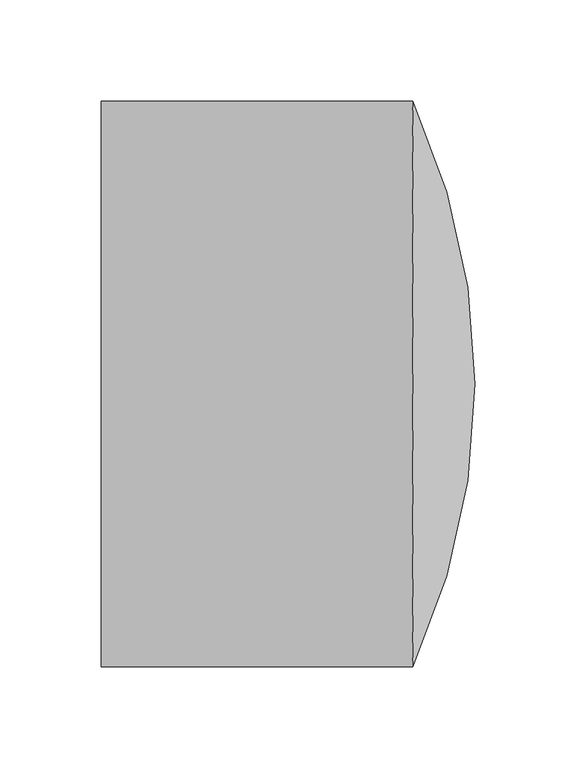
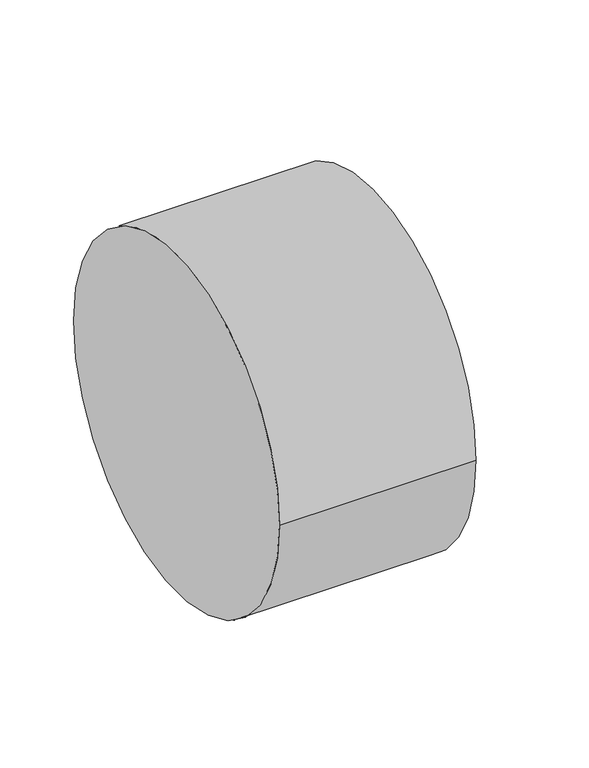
"""IFC4 building model written with IfcOpenShell, lengths in millimetres: pipe fitting geometry, 01051012 : Tapones H."""

import ifcopenshell
import ifcopenshell.guid

model = None  # the IFC model being written
_history = None  # IfcOwnerHistory: only IFC2X3 demands one
_inside = {}  # id of a spatial element -> (the spatial element, [elements in it])
_under = {}  # id of a project, library or spatial element -> (it, [spatial elements below it])
_declared = {}  # id of a project -> (the project, [libraries it declares])
_typed = {}  # id of a type object -> (the type object, [elements of that type])
_made_of = {}  # id of a material, layer set ... -> (it, [elements and type objects made of it])


def new_model(schema):
    """Start an empty IFC model of exactly this schema.

    Asked for "IFC4X3", IfcOpenShell would pick the latest addendum, in which some entities
    have other attributes; the version numbers below select the first issue.
    IFC2X3 requires an IfcOwnerHistory on every rooted entity: one is made here for all.
    """
    global model, _history
    if schema == "IFC4X3":
        model = ifcopenshell.file(schema_version=(4, 3, 0, 0))
    else:
        model = ifcopenshell.file(schema=schema)
    _inside.clear()
    _under.clear()
    _declared.clear()
    _typed.clear()
    _made_of.clear()
    _history = None
    if model.schema == "IFC2X3":
        org = make("IfcOrganization", Name="unknown")
        user = make(
            "IfcPersonAndOrganization",
            ThePerson=make("IfcPerson", FamilyName="unknown"),
            TheOrganization=org,
        )
        app = make(
            "IfcApplication",
            ApplicationDeveloper=org,
            Version="unknown",
            ApplicationFullName="unknown",
            ApplicationIdentifier="unknown",
        )
        _history = make(
            "IfcOwnerHistory",
            OwningUser=user,
            OwningApplication=app,
            ChangeAction="ADDED",
            CreationDate=0,
        )
    return model


def make(cls, **values):
    """One entity of the class cls with the attributes given. An attribute that is None is left unset."""
    return model.create_entity(
        cls, **{name: value for name, value in values.items() if value is not None}
    )


def rooted(cls, **values):
    """An entity with a GlobalId (a new one), such as an element, a storey or a relation."""
    return make(cls, GlobalId=ifcopenshell.guid.new(), OwnerHistory=_history, **values)


def si_unit(unit_type, name, prefix=None):
    """IfcSIUnit, for example si_unit("LENGTHUNIT", "METRE", prefix="MILLI")."""
    return make("IfcSIUnit", UnitType=unit_type, Prefix=prefix, Name=name)


def assignment(units):
    """IfcUnitAssignment: the units of a project."""
    return None if units is None else make("IfcUnitAssignment", Units=units)


def point(xyz):
    """IfcCartesianPoint."""
    return None if xyz is None else make("IfcCartesianPoint", Coordinates=xyz)


def direction(xyz):
    """IfcDirection."""
    return None if xyz is None else make("IfcDirection", DirectionRatios=xyz)


def frame(location, z_axis=None, x_axis=None):
    """IfcAxis2Placement3D, a coordinate frame: its origin and axes. An axis left out is left unset."""
    return make(
        "IfcAxis2Placement3D",
        Location=point(location),
        Axis=direction(z_axis),
        RefDirection=direction(x_axis),
    )


def origin():
    """The frame at (0, 0, 0) with its axes left unset."""
    return frame((0.0, 0.0, 0.0))


def place(relative_to, where):
    """IfcLocalPlacement: puts the frame where relative to a parent placement (None: the world)."""
    return make(
        "IfcLocalPlacement", PlacementRelTo=relative_to, RelativePlacement=where
    )


def context(
    kind, dimensions, precision=None, world=None, true_north=None, identifier=None
):
    """IfcGeometricRepresentationContext, for example the 3D "Model" context."""
    return make(
        "IfcGeometricRepresentationContext",
        ContextIdentifier=identifier,
        ContextType=kind,
        CoordinateSpaceDimension=dimensions,
        Precision=precision,
        WorldCoordinateSystem=world,
        TrueNorth=true_north,
    )


def project(units=None, contexts=None):
    """IfcProject with its units and contexts."""
    return rooted(
        "IfcProject",
        Name="project",
        RepresentationContexts=contexts,
        UnitsInContext=assignment(units),
    )


def spatial(cls, under=None, at=None, **own):
    """A site, building, storey or space (cls), placed at a placement, below another one or the project."""
    s = rooted(cls, ObjectPlacement=at, **own)
    if under is not None:
        _under.setdefault(under.id(), (under, []))[1].append(s)
    return s


def circle_curve(where, radius):
    """IfcCircle in the frame where."""
    return make("IfcCircle", Position=where, Radius=radius)


def ellipse_curve(where, semi_axis1, semi_axis2):
    """IfcEllipse in the frame where."""
    return make(
        "IfcEllipse", Position=where, SemiAxis1=semi_axis1, SemiAxis2=semi_axis2
    )


def trimmed(basis, trim1, trim2, sense, master):
    """IfcTrimmedCurve: the piece of a basis curve between two trims."""
    return make(
        "IfcTrimmedCurve",
        BasisCurve=basis,
        Trim1=trim1,
        Trim2=trim2,
        SenseAgreement=sense,
        MasterRepresentation=master,
    )


def shape(context_of_items, identifier, shape_type, items):
    """IfcShapeRepresentation: the items that make up one representation, for example the "Body"."""
    return make(
        "IfcShapeRepresentation",
        ContextOfItems=context_of_items,
        RepresentationIdentifier=identifier,
        RepresentationType=shape_type,
        Items=items,
    )


def source(mapping_origin, context_of_items, identifier, shape_type, items):
    """IfcRepresentationMap: a shape defined once, which mapped items show again and again."""
    return make(
        "IfcRepresentationMap",
        MappingOrigin=mapping_origin,
        MappedRepresentation=shape(context_of_items, identifier, shape_type, items),
    )


def transform(
    local_origin,
    x_axis=None,
    y_axis=None,
    z_axis=None,
    scale=None,
    scale2=None,
    scale3=None,
    uniform=True,
):
    """IfcCartesianTransformationOperator3D, or its non-uniform kind. x_axis, y_axis, z_axis: its Axis1, 2, 3."""
    if uniform:
        return make(
            "IfcCartesianTransformationOperator3D",
            Axis1=direction(x_axis),
            Axis2=direction(y_axis),
            LocalOrigin=point(local_origin),
            Scale=scale,
            Axis3=direction(z_axis),
        )
    return make(
        "IfcCartesianTransformationOperator3DnonUniform",
        Axis1=direction(x_axis),
        Axis2=direction(y_axis),
        LocalOrigin=point(local_origin),
        Scale=scale,
        Axis3=direction(z_axis),
        Scale2=scale2,
        Scale3=scale3,
    )


def mapped(mapping_source, mapping_target):
    """IfcMappedItem: shows the shape of a source again, moved by a transform."""
    return make(
        "IfcMappedItem", MappingSource=mapping_source, MappingTarget=mapping_target
    )


def made_of(thing, what):
    """Note that an element or type object is made of a material, layer set ...; save() writes the relation."""
    if what is not None:
        _made_of.setdefault(what.id(), (what, []))[1].append(thing)
    return thing


def element(
    cls,
    number,
    at=None,
    inside=None,
    cuts=None,
    type_object=None,
    material=None,
    context=None,
    identifier="Body",
    shape_type=None,
    held_by="IfcProductDefinitionShape",
    body=None,
    shapes=None,
    **own,
):
    """One element of the class cls, such as IfcWall. Its Tag is "e" and its number.

    at: its placement. inside: the storey or other place that contains it. cuts: it is an
    opening in that element (IfcRelVoidsElement). A single representation is given by context,
    identifier, shape_type and body (its items); several are given by shapes. held_by: the class
    of the entity that holds the representations. save() writes the other relations.
    """
    e = rooted(cls, Tag="e%d" % number, ObjectPlacement=at, **own)
    if body is not None:
        shapes = [shape(context, identifier, shape_type, body)]
    if shapes is not None:
        e.Representation = make(held_by, Representations=shapes)
    if inside is not None:
        _inside.setdefault(inside.id(), (inside, []))[1].append(e)
    if cuts is not None:
        rooted(
            "IfcRelVoidsElement", RelatingBuildingElement=cuts, RelatedOpeningElement=e
        )
    if type_object is not None:
        _typed.setdefault(type_object.id(), (type_object, []))[1].append(e)
    return made_of(e, material)


def aggregate(whole, parts):
    """IfcRelAggregates: a whole, such as a stair, and the parts it consists of."""
    return rooted("IfcRelAggregates", RelatingObject=whole, RelatedObjects=parts)


def save(model, path):
    """Write the relations noted so far, then the file.

    IfcRelAggregates (storeys below a building ...), IfcRelContainedInSpatialStructure (elements
    in a storey), IfcRelDefinesByType, IfcRelAssociatesMaterial and IfcRelDeclares: one each for
    every whole, place, type object, material and project.
    """
    for whole, parts in _under.values():
        aggregate(whole, parts)
    for where, things in _inside.values():
        rooted(
            "IfcRelContainedInSpatialStructure",
            RelatedElements=things,
            RelatingStructure=where,
        )
    for kind, things in _typed.values():
        rooted("IfcRelDefinesByType", RelatedObjects=things, RelatingType=kind)
    for what, things in _made_of.values():
        rooted("IfcRelAssociatesMaterial", RelatedObjects=things, RelatingMaterial=what)
    for by, libraries in _declared.values():
        rooted("IfcRelDeclares", RelatingContext=by, RelatedDefinitions=libraries)
    model.write(path)


def plane_surface(at):
    """IfcPlane: the flat surface through the origin of the frame at, square to its z axis."""
    return make("IfcPlane", Position=at)


def cylinder_surface(at, radius):
    """IfcCylindricalSurface: all points at the distance radius from the z axis of the frame at."""
    return make("IfcCylindricalSurface", Position=at, Radius=radius)


def revolved_surface(curve, axis_point, axis_direction):
    """IfcSurfaceOfRevolution: the curve turned about the line through axis_point along axis_direction."""
    return make(
        "IfcSurfaceOfRevolution",
        SweptCurve=make("IfcArbitraryOpenProfileDef", ProfileType="CURVE", Curve=curve),
        AxisPosition=make("IfcAxis1Placement", Location=point(axis_point), Axis=direction(axis_direction)),
    )


def advanced_brep(points, edges, surfaces, faces):
    """IfcAdvancedBrep: a solid bounded by faces that lie on surfaces and meet in shared edges.

    An edge is (start, end): straight between two places in points (the first is 0);
    or (start, end, curve); or (start, end, curve, False) where it runs against its curve.
    A face is (place in surfaces, loops), or (place, loops, False) where it looks against
    its surface's normal. A loop lists edges by number (the first is 1), with a minus sign
    where the edge is run from its end to its start. The first loop is the outer one.
    """
    corners = [point(p) for p in points]
    vertices = [make("IfcVertexPoint", VertexGeometry=c) for c in corners]
    made = []
    for start, end, *more in edges:
        made.append(
            make(
                "IfcEdgeCurve",
                EdgeStart=vertices[start],
                EdgeEnd=vertices[end],
                EdgeGeometry=more[0] if more else make("IfcPolyline", Points=[corners[start], corners[end]]),
                SameSense=more[1] if len(more) > 1 else True,
            )
        )
    hull = []
    for where, loops, *sense in faces:
        bounds = []
        for j, loop in enumerate(loops):
            ring = [make("IfcOrientedEdge", EdgeElement=made[abs(k) - 1], Orientation=k > 0) for k in loop]
            bounds.append(
                make(
                    "IfcFaceOuterBound" if j == 0 else "IfcFaceBound",
                    Bound=make("IfcEdgeLoop", EdgeList=ring),
                    Orientation=True,
                )
            )
        hull.append(make("IfcAdvancedFace", Bounds=bounds, FaceSurface=surfaces[where], SameSense=sense[0] if sense else True))
    return make("IfcAdvancedBrep", Outer=make("IfcClosedShell", CfsFaces=hull))


def pipe_fitting_1efd437d(model_context):
    return source(origin(), model_context, "Body", "AdvancedBrep", [
        advanced_brep(
        [(154.1666667, 140.0, 0.0), (185.0, 0.0, 0.0), (154.1666667, -140.0, 0.0), (0.0, -140.0, 0.0), (0.0, 140.0, 0.0)],
        [
            (0, 1, circle_curve(frame((-154.3534643, -1.3432233, 0.0), z_axis=(0.0, 0.0, -1.0), x_axis=(1.0, 0.0, 0.0)), 339.3561227)),
            (1, 2, circle_curve(frame((-154.3534643, 1.3432233, 0.0), z_axis=(0.0, 0.0, -1.0), x_axis=(1.0, 0.0, 0.0)), 339.3561227)),
            (2, 0, circle_curve(frame((154.1666667, 0.0, 0.0), z_axis=(1.0, 0.0, 0.0), x_axis=(0.0, 1.0, 0.0)), 140.0)),
            (0, 2, circle_curve(frame((154.1666667, 0.0, 0.0), z_axis=(1.0, 0.0, 0.0), x_axis=(0.0, 1.0, 0.0)), 140.0)),
            (3, 4, circle_curve(frame((0.0, 0.0, 0.0), z_axis=(-1.0, 0.0, 0.0), x_axis=(0.0, 1.0, 0.0)), 140.0)),
            (4, 3, circle_curve(frame((0.0, 0.0, 0.0), z_axis=(-1.0, 0.0, 0.0), x_axis=(0.0, 1.0, 0.0)), 140.0)),
            (3, 2),
            (0, 4),
        ],
        [
            revolved_surface(trimmed(ellipse_curve(frame((-154.3534643, -1.3432233, 0.0), z_axis=(0.0, 0.0, 1.0), x_axis=(1.0, 0.0, 0.0)), 339.3561227, 339.3561227), [point((185.0, 0.0, 0.0))], [point((154.1666667, 140.0, 0.0))], True, "CARTESIAN"), (154.1666667, 0.0, 0.0), (-1.0, 0.0, 0.0)),
            plane_surface(frame((0.0, 0.0, 0.0), z_axis=(-1.0, 0.0, 0.0), x_axis=(0.0, 0.0, 1.0))),
            cylinder_surface(frame((0.0, 0.0, 0.0), z_axis=(-1.0, 0.0, 0.0), x_axis=(0.0, 1.0, 0.0)), 140.0),
        ],
        [
            (0, [[1, 2, 3]]),
            (0, [[-1, 4, -2]]),
            (1, [[5, 6]]),
            (2, [[-5, 7, -4, 8]]),
            (2, [[-6, -8, -3, -7]]),
        ],
    ),
    ])


if __name__ == "__main__":
    model = new_model("IFC4")
    model_context = context("Model", 3, world=origin())
    ifc_project = project(units=[si_unit("LENGTHUNIT", "METRE", prefix="MILLI")], contexts=[model_context])
    site = spatial("IfcSite", under=ifc_project)
    building = spatial("IfcBuilding", under=site)
    placement = place(None, origin())
    pipe_fitting_shape = pipe_fitting_1efd437d(model_context)
    element("IfcPipeFitting", 1, ObjectType="01051012 : Tapones H", at=placement, inside=building, context=model_context, shape_type="MappedRepresentation", body=[
        mapped(pipe_fitting_shape, transform((0.0, 0.0, 0.0), x_axis=(1.0, 0.0, 0.0), y_axis=(0.0, 1.0, 0.0), z_axis=(0.0, 0.0, 1.0))),
    ])
    save(model, "model.ifc")
